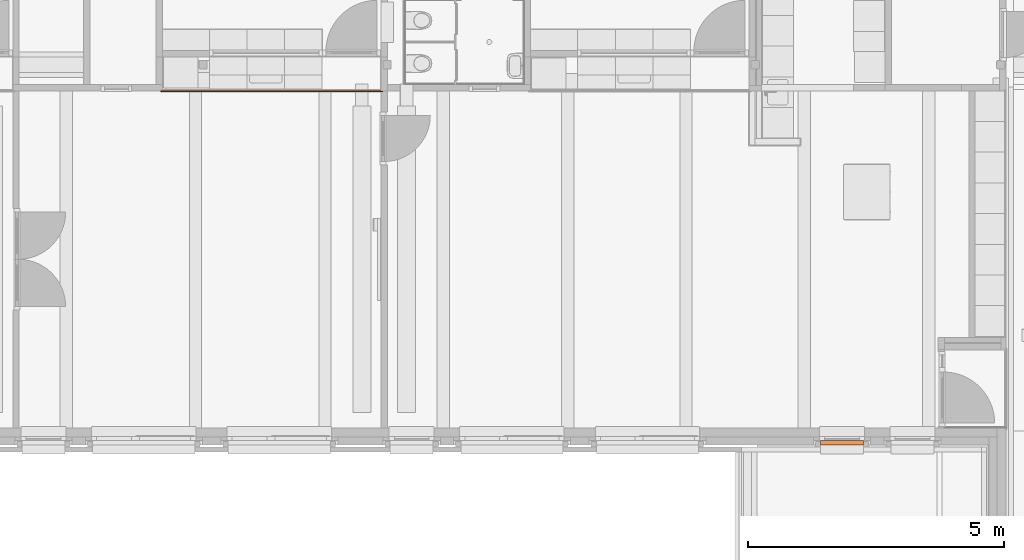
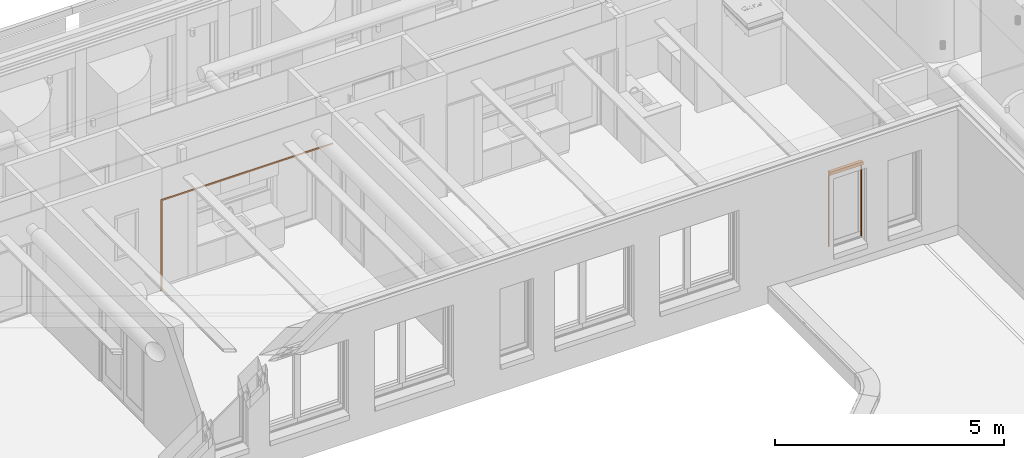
# One storey, part 116 of 128: 2 proxies.
"""IFC2X3 building model written with IfcOpenShell, lengths in millimetres."""

from ifc_helpers import new_model, entity, si_unit, converted_unit, derived_unit, direction, frame, frame_2d, origin, origin_2d_with_axis, place, context, subcontext, project, spatial, polyline, circle_curve, parameter, trimmed, segment, composite_curve, rectangle, outline, extrude, source, transform, mapped, material, material_list, type_object, type_shapes, element, save


model = new_model("IFC2X3")

# Units and contexts
model_context = context("Model", 3, precision=0.01, world=origin(), true_north=direction((6.123031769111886e-17, 1.0)))
body_context = subcontext(model_context, "Body", "Model", "MODEL_VIEW")
ifc_project = project(units=[si_unit("LENGTHUNIT", "METRE", prefix="MILLI"), si_unit("AREAUNIT", "SQUARE_METRE"), si_unit("VOLUMEUNIT", "CUBIC_METRE"), converted_unit("PLANEANGLEUNIT", "DEGREE", entity("IfcRatioMeasure", 0.017453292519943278), si_unit("PLANEANGLEUNIT", "RADIAN"), dimensions=[0, 0, 0, 0, 0, 0, 0]), si_unit("MASSUNIT", "GRAM", prefix="KILO"), derived_unit("MASSDENSITYUNIT", [(si_unit("MASSUNIT", "GRAM", prefix="KILO"), 1), (si_unit("LENGTHUNIT", "METRE"), -3)]), derived_unit("IONCONCENTRATIONUNIT", [(si_unit("MASSUNIT", "GRAM", prefix="KILO"), 1), (si_unit("LENGTHUNIT", "METRE"), -3)]), derived_unit("MOMENTOFINERTIAUNIT", [(si_unit("LENGTHUNIT", "METRE"), 4)]), si_unit("TIMEUNIT", "SECOND"), si_unit("FREQUENCYUNIT", "HERTZ"), si_unit("THERMODYNAMICTEMPERATUREUNIT", "DEGREE_CELSIUS"), derived_unit("THERMALTRANSMITTANCEUNIT", [(si_unit("MASSUNIT", "GRAM", prefix="KILO"), 1), (si_unit("THERMODYNAMICTEMPERATUREUNIT", "KELVIN"), -1), (si_unit("TIMEUNIT", "SECOND"), -3)]), derived_unit("THERMALCONDUCTANCEUNIT", [(si_unit("MASSUNIT", "GRAM", prefix="KILO"), 1), (si_unit("THERMODYNAMICTEMPERATUREUNIT", "KELVIN"), -1), (si_unit("TIMEUNIT", "SECOND"), -3), (si_unit("LENGTHUNIT", "METRE"), 1)]), derived_unit("VOLUMETRICFLOWRATEUNIT", [(si_unit("LENGTHUNIT", "METRE"), 3), (si_unit("TIMEUNIT", "SECOND"), -1)]), derived_unit("MASSFLOWRATEUNIT", [(si_unit("MASSUNIT", "GRAM", prefix="KILO"), 1), (si_unit("TIMEUNIT", "SECOND"), -1)]), derived_unit("ROTATIONALFREQUENCYUNIT", [(si_unit("TIMEUNIT", "SECOND"), -1)]), si_unit("ELECTRICCURRENTUNIT", "AMPERE"), si_unit("ELECTRICVOLTAGEUNIT", "VOLT"), si_unit("POWERUNIT", "WATT"), si_unit("FORCEUNIT", "NEWTON", prefix="KILO"), si_unit("ILLUMINANCEUNIT", "LUX"), si_unit("LUMINOUSFLUXUNIT", "LUMEN"), si_unit("LUMINOUSINTENSITYUNIT", "CANDELA"), derived_unit("USERDEFINED", [(si_unit("MASSUNIT", "GRAM", prefix="KILO"), -1), (si_unit("LENGTHUNIT", "METRE"), -2), (si_unit("TIMEUNIT", "SECOND"), 3), (si_unit("LUMINOUSFLUXUNIT", "LUMEN"), 1)]), derived_unit("USERDEFINED", [(si_unit("MASSUNIT", "GRAM", prefix="KILO"), 1), (si_unit("TIMEUNIT", "SECOND"), -3), (si_unit("LENGTHUNIT", "METRE"), 3), (si_unit("ELECTRICCURRENTUNIT", "AMPERE"), -2)]), derived_unit("SOUNDPOWERUNIT", [(si_unit("MASSUNIT", "GRAM", prefix="KILO"), 1), (si_unit("TIMEUNIT", "SECOND"), -3), (si_unit("LENGTHUNIT", "METRE"), 2)]), derived_unit("SOUNDPRESSUREUNIT", [(si_unit("MASSUNIT", "GRAM", prefix="KILO"), 1), (si_unit("LENGTHUNIT", "METRE"), -1), (si_unit("TIMEUNIT", "SECOND"), -2)]), derived_unit("LINEARVELOCITYUNIT", [(si_unit("LENGTHUNIT", "METRE"), 1), (si_unit("TIMEUNIT", "SECOND"), -1)]), si_unit("PRESSUREUNIT", "PASCAL"), derived_unit("USERDEFINED", [(si_unit("MASSUNIT", "GRAM", prefix="KILO"), 1), (si_unit("LENGTHUNIT", "METRE"), -2), (si_unit("TIMEUNIT", "SECOND"), -2)]), derived_unit("LINEARFORCEUNIT", [(si_unit("MASSUNIT", "GRAM", prefix="KILO"), 1), (si_unit("TIMEUNIT", "SECOND"), -2)]), derived_unit("PLANARFORCEUNIT", [(si_unit("MASSUNIT", "GRAM", prefix="KILO"), 1), (si_unit("LENGTHUNIT", "METRE"), -1), (si_unit("TIMEUNIT", "SECOND"), -2)]), derived_unit("SPECIFICHEATCAPACITYUNIT", [(si_unit("THERMODYNAMICTEMPERATUREUNIT", "KELVIN"), -1), (si_unit("LENGTHUNIT", "METRE"), 2), (si_unit("TIMEUNIT", "SECOND"), -2)]), derived_unit("HEATINGVALUEUNIT", [(si_unit("LENGTHUNIT", "METRE"), 2), (si_unit("TIMEUNIT", "SECOND"), -2)]), derived_unit("VAPORPERMEABILITYUNIT", [(si_unit("LENGTHUNIT", "METRE"), -1), (si_unit("TIMEUNIT", "SECOND"), 1)]), derived_unit("DYNAMICVISCOSITYUNIT", [(si_unit("MASSUNIT", "GRAM", prefix="KILO"), 1), (si_unit("TIMEUNIT", "SECOND"), -1), (si_unit("LENGTHUNIT", "METRE"), -1)]), derived_unit("THERMALEXPANSIONCOEFFICIENTUNIT", [(si_unit("THERMODYNAMICTEMPERATUREUNIT", "KELVIN"), -1)]), derived_unit("MODULUSOFELASTICITYUNIT", [(si_unit("MASSUNIT", "GRAM", prefix="KILO"), 1), (si_unit("LENGTHUNIT", "METRE"), -1), (si_unit("TIMEUNIT", "SECOND"), -2)]), derived_unit("ISOTHERMALMOISTURECAPACITYUNIT", [(si_unit("LENGTHUNIT", "METRE"), 3), (si_unit("MASSUNIT", "GRAM", prefix="KILO"), -1)]), derived_unit("MOISTUREDIFFUSIVITYUNIT", [(si_unit("TIMEUNIT", "SECOND"), -1), (si_unit("LENGTHUNIT", "METRE"), 2)])], contexts=[model_context])

# Site, building, storey
site_placement = place(None, frame((0.0, 300.0, 0.0)))
site = spatial("IfcSite", under=ifc_project, at=site_placement, Name="<Kadastrale nummers>", CompositionType="ELEMENT")
building_placement = place(site_placement, origin())
building = spatial("IfcBuilding", under=site, at=building_placement, CompositionType="ELEMENT")
storey_placement = place(building_placement, frame((0.0, 0.0, 3560.0000331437)))
storey = spatial("IfcBuildingStorey", under=building, at=storey_placement, Name="01 eerste verdieping", CompositionType="ELEMENT", Elevation=3560.0000331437)

# Proxy
ifc_material_1 = material(Name="STAAL_RAL 7006")
ifc_material_2 = material(Name="<Unnamed>")
ifc_material_list = material_list([ifc_material_1, ifc_material_2])
building_element_proxy_type_1 = type_object("IfcBuildingElementProxyType", Name="31_DAT_Screen_zonwering_bak85:31_DAT_Screen_zonwering_bak85", PredefinedType="NOTDEFINED", material=ifc_material_list)
shared_shape_1 = source(origin(), body_context, "Body", "SweptSolid", [
    extrude(outline(polyline([(-53.573897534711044, -60.698648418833), (27.826102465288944, -60.698648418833), (27.826102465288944, 17.501351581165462), (24.626102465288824, 17.501351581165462), (24.626102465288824, 22.501351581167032), (1.1216926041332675, 22.501351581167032), (1.1216926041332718, 20.695945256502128), (-53.573897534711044, 20.695945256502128), (-53.573897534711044, -60.698648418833)])), frame((838.0, 29.62610246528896, 2772.501351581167), z_axis=(1.0, 0.0, 0.0), x_axis=(0.0, -1.0, 0.0)), (0.0, 0.0, 1.0), 1.9999999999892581),
    extrude(outline(polyline([(-51.082598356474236, -55.832432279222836), (33.91740164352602, -55.832432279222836), (33.91740164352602, 29.167567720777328), (28.91740164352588, 29.167567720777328), (28.91740164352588, 24.16756772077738), (32.117401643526, 24.16756772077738), (32.117401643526, -54.032432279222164), (-49.28259835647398, -54.032432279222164), (-49.28259835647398, 27.362161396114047), (5.41299178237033, 27.362161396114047), (5.41299178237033, 29.167567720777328), (-51.082598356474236, 29.167567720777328), (-51.082598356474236, -55.832432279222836)])), frame((0.0, 33.91740164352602, 2779.1675677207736), z_axis=(1.0, 0.0, 0.0), x_axis=(0.0, -1.0, 0.0)), (0.0, 0.0, 1.0), 839.9999999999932),
    extrude(outline(polyline([(-53.573897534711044, -60.698648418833), (27.826102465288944, -60.698648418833), (27.826102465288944, 17.501351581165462), (24.626102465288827, 17.501351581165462), (24.626102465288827, 22.501351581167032), (1.1216926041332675, 22.501351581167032), (1.1216926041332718, 20.695945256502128), (-53.573897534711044, 20.695945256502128), (-53.573897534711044, -60.698648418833)])), frame((0.0, 29.62610246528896, 2772.501351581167), z_axis=(1.0, 0.0, 0.0), x_axis=(0.0, -1.0, 0.0)), (0.0, 0.0, 1.0), 1.999999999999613),
    extrude(rectangle(XDim=1.163311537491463, YDim=800.0000000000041, at=frame_2d((2.1094237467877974e-15, 0.0), x_axis=(1.0, 0.0))), frame((420.0, 20.03729323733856, 2750.0), z_axis=(0.0, 0.0, 1.0), x_axis=(0.0, -1.0, 0.0)), (0.0, 0.0, 1.0), 47.3934410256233),
    extrude(outline(composite_curve([segment(trimmed(circle_curve(frame_2d((21.523758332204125, 7.502327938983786), x_axis=(1.0, 0.0)), 1.5000000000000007), [parameter(6.615553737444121e-13)], [parameter(90.00000000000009)], True, "PARAMETER"), True, "CONTINUOUS"), segment(polyline([(21.523758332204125, 9.00232793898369), (-8.97624166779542, 9.00232793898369)]), True, "CONTINUOUS"), segment(trimmed(circle_curve(frame_2d((-8.97624166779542, 6.00232793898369), x_axis=(1.0, 0.0)), 3.0), [parameter(90.00000000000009)], [parameter(172.8445490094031)], True, "PARAMETER"), True, "CONTINUOUS"), segment(polyline([(-11.952877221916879, 6.376013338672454), (-12.470504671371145, 2.2367466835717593)]), True, "CONTINUOUS"), segment(trimmed(circle_curve(frame_2d((-11.733933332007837, 2.1446362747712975), x_axis=(1.0, 0.0)), 0.7423083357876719), [parameter(172.87199730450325)], [parameter(320.7928857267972)], True, "PARAMETER"), True, "CONTINUOUS"), segment(trimmed(circle_curve(frame_2d((-8.97624166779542, 0.002327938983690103), x_axis=(1.0, 0.0)), 2.75), [parameter(218.21030001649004)], [parameter(142.52672013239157)], True, "PARAMETER"), False, "CONTINUOUS"), segment(trimmed(circle_curve(frame_2d((-11.733933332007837, -2.1399803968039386), x_axis=(1.0, 0.0)), 0.7423083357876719), [parameter(36.476465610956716)], [parameter(187.12800269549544)], True, "PARAMETER"), True, "CONTINUOUS"), segment(polyline([(-12.470504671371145, -2.2320908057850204), (-11.95287722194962, -6.3713574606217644)]), True, "CONTINUOUS"), segment(trimmed(circle_curve(frame_2d((-8.97624166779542, -5.9976720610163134), x_axis=(1.0, 0.0)), 3.0), [parameter(187.15545099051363)], [parameter(269.9999999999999)], True, "PARAMETER"), True, "CONTINUOUS"), segment(polyline([(-8.97624166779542, -8.997672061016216), (21.523758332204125, -8.997672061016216)]), True, "CONTINUOUS"), segment(trimmed(circle_curve(frame_2d((21.523758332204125, -7.497672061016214), x_axis=(1.0, 0.0)), 1.4999999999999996), [parameter(269.9999999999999)], [parameter(7.124442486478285e-13)], True, "PARAMETER"), True, "CONTINUOUS"), segment(polyline([(23.02375833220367, -7.4976720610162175), (23.02375833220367, 7.50232793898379)]), True, "CONTINUOUS")], self_intersect=False)), frame((20.0, 19.99767206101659, 2790.417199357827), z_axis=(1.0, 0.0, 0.0), x_axis=(0.0, 0.0, -1.0)), (0.0, 0.0, 1.0), 800.0000000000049),
    extrude(outline(polyline([(-16.231574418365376, -14.638298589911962), (13.768425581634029, -14.638298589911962), (13.768425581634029, 15.36170141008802), (-6.2315744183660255, 15.36170141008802), (-6.2315744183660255, 10.361701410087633), (-4.769580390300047, 10.361701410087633), (-4.769580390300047, 13.866111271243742), (12.23272922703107, 13.866111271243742), (12.23272922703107, -4.579546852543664), (-4.769580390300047, -4.579546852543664), (-4.769580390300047, -1.1166850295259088), (-6.231574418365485, -1.1166850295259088), (-6.231574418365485, -6.116685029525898), (12.232729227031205, -6.116685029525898), (12.232729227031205, -13.138298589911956), (-16.231574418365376, -13.138298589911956), (-16.231574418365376, -14.638298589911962)])), frame((826.2315744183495, 14.638298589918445, 810.0)), (0.0, 0.0, 1.0), 1940.0000000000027),
    extrude(outline(polyline([(-14.638298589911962, -16.231574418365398), (-13.13829858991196, -16.231574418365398), (-13.13829858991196, 12.232729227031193), (-6.116685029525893, 12.232729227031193), (-6.116685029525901, -6.231574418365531), (-1.116685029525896, -6.231574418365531), (-1.116685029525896, -4.769580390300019), (-4.579546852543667, -4.769580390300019), (-4.579546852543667, 12.2327292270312), (13.866111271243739, 12.2327292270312), (13.866111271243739, -4.769580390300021), (10.361701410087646, -4.769580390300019), (10.361701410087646, -6.231574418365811), (15.361701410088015, -6.231574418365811), (15.361701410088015, 13.76842558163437), (-14.638298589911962, 13.76842558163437), (-14.638298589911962, -16.231574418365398)])), frame((13.768425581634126, 14.638298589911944, 810.0), z_axis=(0.0, 0.0, 1.0), x_axis=(0.0, 1.0, 0.0)), (0.0, 0.0, 1.0), 1940.0000000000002),
])
type_shapes(building_element_proxy_type_1, [shared_shape_1])
proxy_1_placement = place(storey_placement, frame((33914.0, 37949.0, 90.00000187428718), z_axis=(0.0, 0.0, 1.0), x_axis=(-1.0, 0.0, 0.0)))
element("IfcBuildingElementProxy", 1, at=proxy_1_placement, inside=storey, type_object=building_element_proxy_type_1, material=ifc_material_list, Name="31_DAT_Screen_zonwering_bak85:31_DAT_Screen_zonwering_bak85", ObjectType="31_DAT_Screen_zonwering_bak85:31_DAT_Screen_zonwering_bak85", context=body_context, shape_type="MappedRepresentation", body=[
    mapped(shared_shape_1, transform((0.0, 0.0, 0.0), scale=1.0)),
])

# Space
space_placement = place(storey_placement, origin())
space = spatial("IfcSpace", under=storey, at=space_placement, Name="1.03", CompositionType="ELEMENT", InteriorOrExteriorSpace="INTERNAL")

# Proxy
ifc_material_3 = material(Name="ISR_HPL Kleur hout")
building_element_proxy_type_2 = type_object("IfcBuildingElementProxyType", Name="82_DAT_Trimlat om element:82_DAT_Trimlat om element", PredefinedType="NOTDEFINED", material=ifc_material_3)
shared_shape_2 = source(origin(), body_context, "Body", "SweptSolid", [
    extrude(rectangle(XDim=19.999999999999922, YDim=34.99999999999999, at=origin_2d_with_axis()), frame((-17.500000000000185, -10.0, 0.0), z_axis=(0.0, 0.0, 1.0), x_axis=(0.0, 1.0, 0.0)), (0.0, 0.0, 1.0), 2400.000000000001),
    extrude(rectangle(XDim=19.99999999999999, YDim=4344.999999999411, at=frame_2d((0.0, -2.2737367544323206e-13), x_axis=(1.0, 0.0))), frame((2137.499999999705, -10.0, 2400.0), z_axis=(0.0, 0.0, 1.0), x_axis=(0.0, 1.0, 0.0)), (0.0, 0.0, 1.0), 34.99999999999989),
])
type_shapes(building_element_proxy_type_2, [shared_shape_2])
proxy_2_placement = place(space_placement, frame((20205.0, 44790.0, 90.00000187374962)))
element("IfcBuildingElementProxy", 2, at=proxy_2_placement, inside=space, type_object=building_element_proxy_type_2, material=ifc_material_3, Name="82_DAT_Trimlat om element:82_DAT_Trimlat om element", ObjectType="82_DAT_Trimlat om element:82_DAT_Trimlat om element", context=body_context, shape_type="MappedRepresentation", body=[
    mapped(shared_shape_2, transform((0.0, 0.0, 0.0), scale=1.0)),
])

save(model, "model.ifc")
